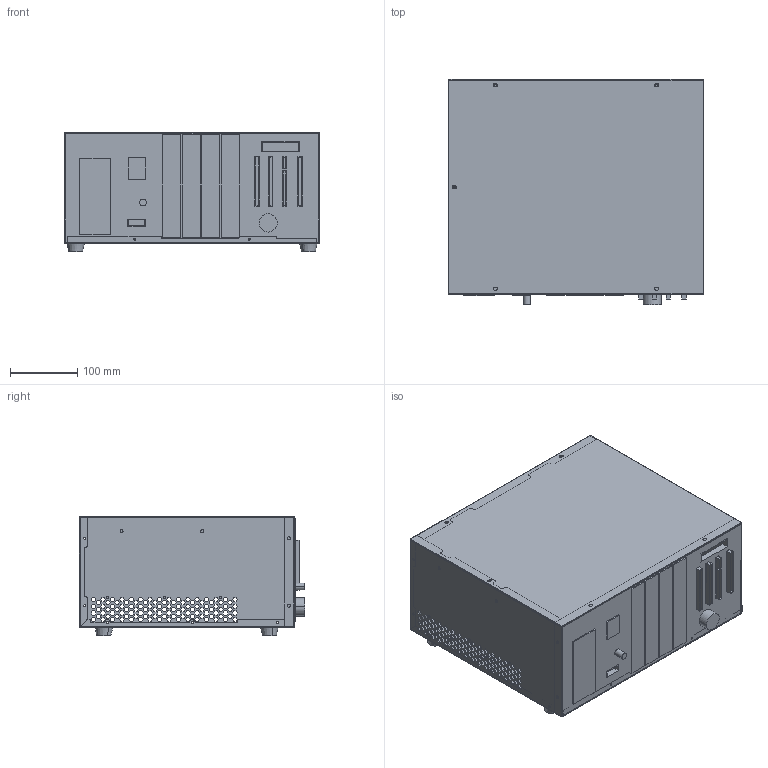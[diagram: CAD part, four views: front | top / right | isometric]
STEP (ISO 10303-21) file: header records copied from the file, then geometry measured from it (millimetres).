
FILE_DESCRIPTION (( 'STEP AP203' ), '1' );
FILE_NAME ('EC-C6-000-1V1 C型控制柜柜体-官网.STEP', '2023-12-11T01:44:21', ( '' ), ( '' ), 'SwSTEP 2.0', 'SolidWorks 2021', '' );
FILE_SCHEMA (( 'CONFIG_CONTROL_DESIGN' ));
Length unit declared in the file: millimetre
Products named in the file (6): 黑色橡胶支脚 26+21+13 环保橡胶; EC-C6-000-1V1 C型控制柜柜体-官网; EC-C6-1-006 酘耜啣; EC-C6-1-007 衵耜啣; EC-C6-1-005 ヶ醱啣; EC-C6-1-003 翋遺殤
Assembly tree (8 placements, depth 2):
  EC-C6-000-1V1 C型控制柜柜体-官网
    EC-C6-1-003 翋遺殤
    EC-C6-1-005 ヶ醱啣
    EC-C6-1-006 酘耜啣
    EC-C6-1-007 衵耜啣
    黑色橡胶支脚 26+21+13 环保橡胶  x4
Bounding box: 380 x 334.5 x 178 mm (x, y, z)
Volume: 566869.4 mm3; surface area: 1012867.4 mm2
Topology: 8 solids, 8 shells, 2024 faces, 5888 edges, 3872 vertices
Faces by surface type: plane 1765, cylinder 246, cone 8, bspline 5
Entity records: 67156 total; most frequent: CARTESIAN_POINT 11931, ORIENTED_EDGE 11668, DIRECTION 10292, EDGE_CURVE 5834, LINE 5362, VECTOR 5362, VERTEX_POINT 3836, EDGE_LOOP 2616
